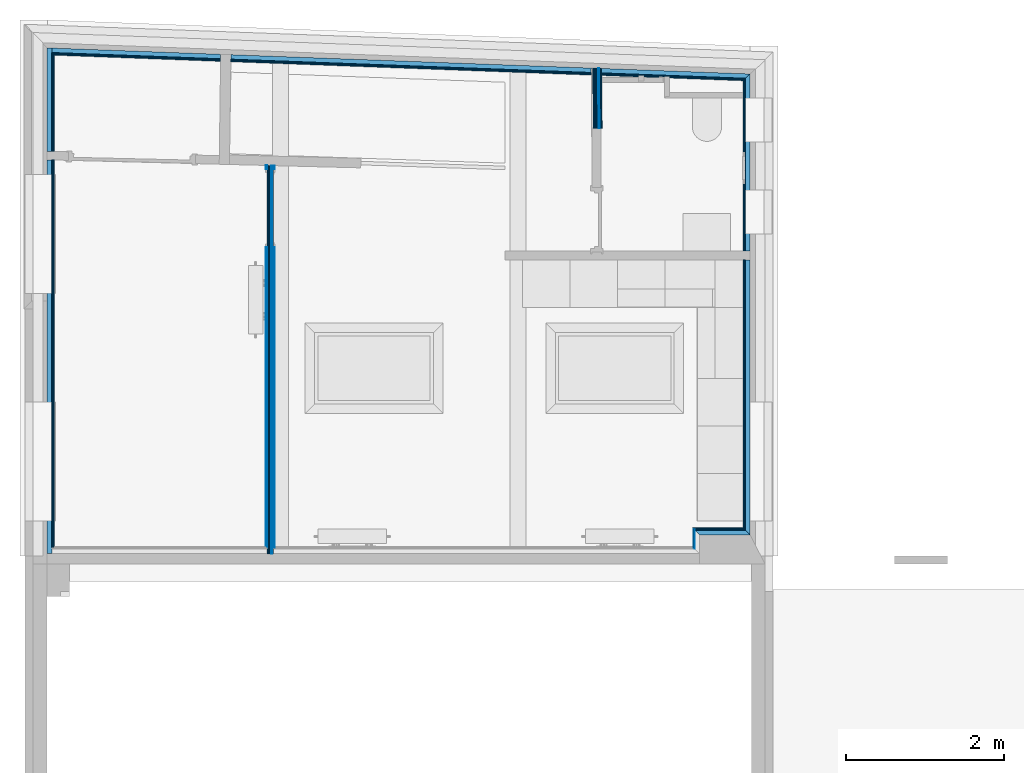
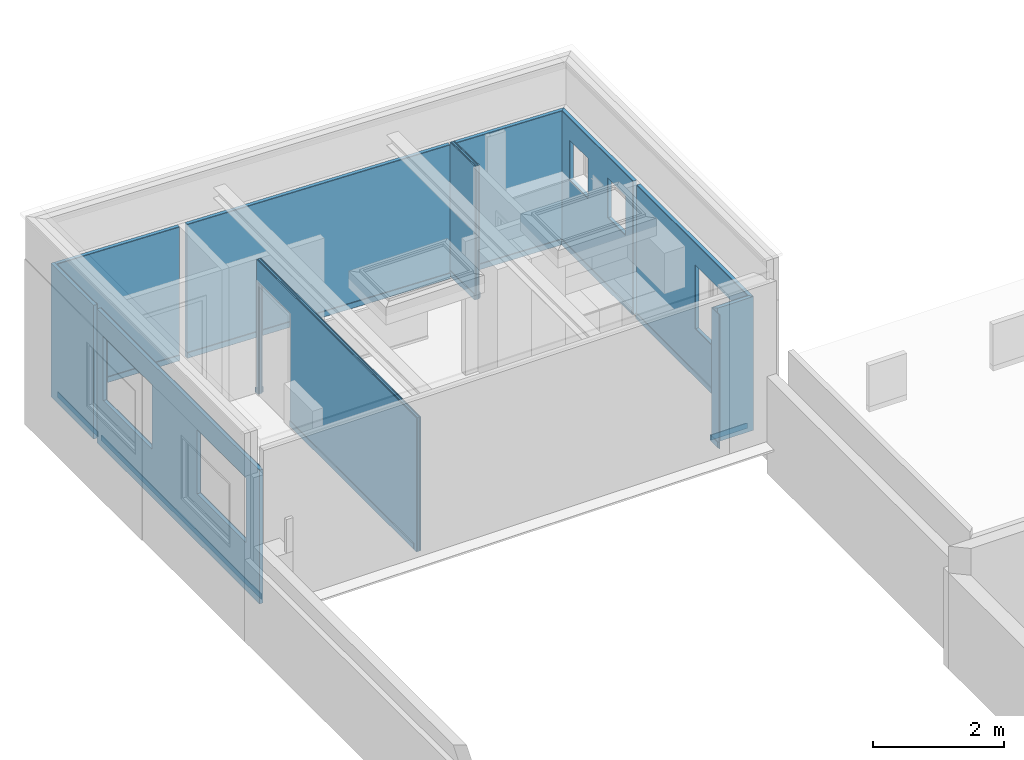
# One storey, part 7 of 22: 40 building element parts, 6 openings, 11 elements without a shape of their own.
"""IFC2X3 building model written with IfcOpenShell, lengths in metres."""

from ifc_helpers import new_model, entity, si_unit, converted_unit, derived_unit, money_unit, direction, frame, frame_2d, origin_with_axes, place, context, subcontext, project, spatial, polyline, rectangle, outline, extrude, material, type_object, element, aggregate, save


model = new_model("IFC2X3")

# Units and contexts
model_context = context("Model", 3, precision=1e-05, world=origin_with_axes(), true_north=direction((0.0, 1.0)))
body_context = subcontext(model_context, "Body", "Model", "MODEL_VIEW", scale=1.0)
ifc_project = project(units=[si_unit("LENGTHUNIT", "METRE"), si_unit("AREAUNIT", "SQUARE_METRE"), si_unit("VOLUMEUNIT", "CUBIC_METRE"), si_unit("ABSORBEDDOSEUNIT", "GRAY"), si_unit("AMOUNTOFSUBSTANCEUNIT", "MOLE"), si_unit("DOSEEQUIVALENTUNIT", "SIEVERT"), si_unit("ELECTRICCAPACITANCEUNIT", "FARAD"), si_unit("ELECTRICCHARGEUNIT", "COULOMB"), si_unit("ELECTRICCONDUCTANCEUNIT", "SIEMENS"), si_unit("ELECTRICCURRENTUNIT", "AMPERE"), si_unit("ELECTRICRESISTANCEUNIT", "OHM"), si_unit("ELECTRICVOLTAGEUNIT", "VOLT"), si_unit("ENERGYUNIT", "JOULE"), si_unit("FORCEUNIT", "NEWTON"), si_unit("FREQUENCYUNIT", "HERTZ"), si_unit("ILLUMINANCEUNIT", "LUX"), si_unit("INDUCTANCEUNIT", "HENRY"), si_unit("LUMINOUSFLUXUNIT", "LUMEN"), si_unit("LUMINOUSINTENSITYUNIT", "CANDELA"), si_unit("MAGNETICFLUXDENSITYUNIT", "TESLA"), si_unit("MAGNETICFLUXUNIT", "WEBER"), si_unit("MASSUNIT", "GRAM"), converted_unit("PLANEANGLEUNIT", "degree", entity("IfcReal", 0.0174532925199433), si_unit("PLANEANGLEUNIT", "RADIAN"), dimensions=[0, 0, 0, 0, 0, 0, 0]), si_unit("POWERUNIT", "WATT"), si_unit("PRESSUREUNIT", "PASCAL"), si_unit("RADIOACTIVITYUNIT", "BECQUEREL"), si_unit("SOLIDANGLEUNIT", "STERADIAN"), si_unit("THERMODYNAMICTEMPERATUREUNIT", "KELVIN"), si_unit("TIMEUNIT", "SECOND"), derived_unit("ACCELERATIONUNIT", [(si_unit("LENGTHUNIT", "METRE"), 1), (si_unit("TIMEUNIT", "SECOND"), -2)]), derived_unit("ANGULARVELOCITYUNIT", [(converted_unit("PLANEANGLEUNIT", "degree", entity("IfcReal", 0.0174532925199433), si_unit("PLANEANGLEUNIT", "RADIAN"), dimensions=[0, 0, 0, 0, 0, 0, 0]), 1), (si_unit("TIMEUNIT", "SECOND"), -1)]), derived_unit("CURVATUREUNIT", [(converted_unit("PLANEANGLEUNIT", "degree", entity("IfcReal", 0.0174532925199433), si_unit("PLANEANGLEUNIT", "RADIAN"), dimensions=[0, 0, 0, 0, 0, 0, 0]), 1), (si_unit("LENGTHUNIT", "METRE"), -1)]), derived_unit("DYNAMICVISCOSITYUNIT", [(si_unit("PRESSUREUNIT", "PASCAL"), 1), (si_unit("TIMEUNIT", "SECOND"), 1)]), derived_unit("HEATFLUXDENSITYUNIT", [(si_unit("POWERUNIT", "WATT"), 1), (si_unit("LENGTHUNIT", "METRE"), -2)]), derived_unit("HEATINGVALUEUNIT", [(si_unit("ENERGYUNIT", "JOULE"), 1), (si_unit("MASSUNIT", "GRAM"), -1)]), derived_unit("INTEGERCOUNTRATEUNIT", [(si_unit("TIMEUNIT", "SECOND"), -1)]), derived_unit("IONCONCENTRATIONUNIT", [(si_unit("MASSUNIT", "GRAM"), 1), (si_unit("VOLUMEUNIT", "CUBIC_METRE"), -1)]), derived_unit("ISOTHERMALMOISTURECAPACITYUNIT", [(si_unit("VOLUMEUNIT", "CUBIC_METRE"), 1), (si_unit("MASSUNIT", "GRAM"), -1)]), derived_unit("KINEMATICVISCOSITYUNIT", [(si_unit("AREAUNIT", "SQUARE_METRE"), 1), (si_unit("TIMEUNIT", "SECOND"), -1)]), derived_unit("LINEARFORCEUNIT", [(si_unit("FORCEUNIT", "NEWTON"), 1), (si_unit("LENGTHUNIT", "METRE"), -1)]), derived_unit("LINEARMOMENTUNIT", [(si_unit("FORCEUNIT", "NEWTON"), 1), (si_unit("LENGTHUNIT", "METRE"), -1)]), derived_unit("LINEARSTIFFNESSUNIT", [(si_unit("FORCEUNIT", "NEWTON"), 1), (si_unit("LENGTHUNIT", "METRE"), -1)]), derived_unit("LINEARVELOCITYUNIT", [(si_unit("LENGTHUNIT", "METRE"), 1), (si_unit("TIMEUNIT", "SECOND"), -1)]), derived_unit("LUMINOUSINTENSITYDISTRIBUTIONUNIT", [(si_unit("LUMINOUSINTENSITYUNIT", "CANDELA"), 1), (si_unit("LUMINOUSFLUXUNIT", "LUMEN"), -1)]), derived_unit("MASSDENSITYUNIT", [(si_unit("MASSUNIT", "GRAM"), 1), (si_unit("VOLUMEUNIT", "CUBIC_METRE"), -1)]), derived_unit("MASSFLOWRATEUNIT", [(si_unit("MASSUNIT", "GRAM"), 1), (si_unit("TIMEUNIT", "SECOND"), -1)]), derived_unit("MASSPERLENGTHUNIT", [(si_unit("MASSUNIT", "GRAM"), 1), (si_unit("LENGTHUNIT", "METRE"), -1)]), derived_unit("MODULUSOFELASTICITYUNIT", [(si_unit("FORCEUNIT", "NEWTON"), 1), (si_unit("AREAUNIT", "SQUARE_METRE"), -1)]), derived_unit("MODULUSOFLINEARSUBGRADEREACTIONUNIT", [(si_unit("FORCEUNIT", "NEWTON"), 1), (si_unit("LENGTHUNIT", "METRE"), -2)]), derived_unit("MODULUSOFROTATIONALSUBGRADEREACTIONUNIT", [(si_unit("FORCEUNIT", "NEWTON"), 1), (si_unit("LENGTHUNIT", "METRE"), 1)]), derived_unit("MODULUSOFSUBGRADEREACTIONUNIT", [(si_unit("FORCEUNIT", "NEWTON"), 1), (si_unit("VOLUMEUNIT", "CUBIC_METRE"), -1)]), derived_unit("MOISTUREDIFFUSIVITYUNIT", [(si_unit("VOLUMEUNIT", "CUBIC_METRE"), 1), (si_unit("TIMEUNIT", "SECOND"), -1)]), derived_unit("MOLECULARWEIGHTUNIT", [(si_unit("MASSUNIT", "GRAM"), 1), (si_unit("AMOUNTOFSUBSTANCEUNIT", "MOLE"), -1)]), derived_unit("PLANARFORCEUNIT", [(si_unit("FORCEUNIT", "NEWTON"), 1), (si_unit("LENGTHUNIT", "METRE"), -2)]), derived_unit("ROTATIONALFREQUENCYUNIT", [(si_unit("TIMEUNIT", "SECOND"), -1)]), derived_unit("ROTATIONALMASSUNIT", [(si_unit("MASSUNIT", "GRAM"), 1), (si_unit("LENGTHUNIT", "METRE"), 2)]), derived_unit("ROTATIONALSTIFFNESSUNIT", [(si_unit("FORCEUNIT", "NEWTON"), 1), (si_unit("LENGTHUNIT", "METRE"), 1), (converted_unit("PLANEANGLEUNIT", "degree", entity("IfcReal", 0.0174532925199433), si_unit("PLANEANGLEUNIT", "RADIAN"), dimensions=[0, 0, 0, 0, 0, 0, 0]), -1)]), derived_unit("SECTIONAREAINTEGRALUNIT", [(si_unit("LENGTHUNIT", "METRE"), 5)]), derived_unit("SECTIONMODULUSUNIT", [(si_unit("LENGTHUNIT", "METRE"), 3)]), derived_unit("SHEARMODULUSUNIT", [(si_unit("FORCEUNIT", "NEWTON"), 1), (si_unit("AREAUNIT", "SQUARE_METRE"), -1)]), derived_unit("SOUNDPOWERUNIT", [(si_unit("ENERGYUNIT", "JOULE"), 1), (si_unit("TIMEUNIT", "SECOND"), -1)]), derived_unit("SPECIFICHEATCAPACITYUNIT", [(si_unit("FORCEUNIT", "NEWTON"), 1), (si_unit("MASSUNIT", "GRAM"), -1), (si_unit("THERMODYNAMICTEMPERATUREUNIT", "KELVIN"), -1)]), derived_unit("TEMPERATUREGRADIENTUNIT", [(si_unit("THERMODYNAMICTEMPERATUREUNIT", "KELVIN"), 1), (si_unit("LENGTHUNIT", "METRE"), -1)]), derived_unit("THERMALADMITTANCEUNIT", [(si_unit("POWERUNIT", "WATT"), 1), (si_unit("AREAUNIT", "SQUARE_METRE"), -1), (si_unit("THERMODYNAMICTEMPERATUREUNIT", "KELVIN"), -1)]), derived_unit("THERMALCONDUCTANCEUNIT", [(si_unit("POWERUNIT", "WATT"), 1), (si_unit("LENGTHUNIT", "METRE"), -1), (si_unit("THERMODYNAMICTEMPERATUREUNIT", "KELVIN"), -1)]), derived_unit("THERMALEXPANSIONCOEFFICIENTUNIT", [(si_unit("THERMODYNAMICTEMPERATUREUNIT", "KELVIN"), -1)]), derived_unit("THERMALRESISTANCEUNIT", [(si_unit("AREAUNIT", "SQUARE_METRE"), 1), (si_unit("POWERUNIT", "WATT"), -1)]), derived_unit("THERMALTRANSMITTANCEUNIT", [(si_unit("POWERUNIT", "WATT"), 1), (si_unit("AREAUNIT", "SQUARE_METRE"), -1), (si_unit("THERMODYNAMICTEMPERATUREUNIT", "KELVIN"), -1)]), derived_unit("TORQUEUNIT", [(si_unit("FORCEUNIT", "NEWTON"), 1), (si_unit("LENGTHUNIT", "METRE"), 1)]), derived_unit("VAPORPERMEABILITYUNIT", [(si_unit("MASSUNIT", "GRAM"), 1), (si_unit("TIMEUNIT", "SECOND"), -1)]), derived_unit("VOLUMETRICFLOWRATEUNIT", [(si_unit("VOLUMEUNIT", "CUBIC_METRE"), 1), (si_unit("TIMEUNIT", "SECOND"), -1)]), derived_unit("WARPINGCONSTANTUNIT", [(si_unit("LENGTHUNIT", "METRE"), 6)]), derived_unit("WARPINGMOMENTUNIT", [(si_unit("FORCEUNIT", "NEWTON"), 1), (si_unit("LENGTHUNIT", "METRE"), 2)]), money_unit("GBP")], contexts=[model_context])

# Site, building, storey
site_placement = place(None, origin_with_axes())
site = spatial("IfcSite", under=ifc_project, at=site_placement, Name="Site", CompositionType="ELEMENT")
building_placement = place(site_placement, origin_with_axes())
building = spatial("IfcBuilding", under=site, at=building_placement, Name="Building01", CompositionType="ELEMENT")
storey_placement = place(building_placement, frame((0.0, 0.0, 2.6), z_axis=(0.0, 0.0, 1.0), x_axis=(1.0, 0.0, 0.0)))
storey = spatial("IfcBuildingStorey", under=building, at=storey_placement, Name="MF", CompositionType="ELEMENT", Elevation=2.6)

# Wall, opening, building element parts
wall_type_1 = type_object("IfcWallType", Name="SHE_A-Walls_Type05b_Partition_80mm", PredefinedType="NOTDEFINED")
wall_1_placement = place(storey_placement, frame((3.110414, 14.93, 0.585), z_axis=(0.0, 0.0, 1.0), x_axis=(0.0, 1.0, 0.0)))
wall_1 = element("IfcWall", 1, at=wall_1_placement, inside=storey, type_object=wall_type_1, Name="5B", ObjectType="SHE_A-Walls_Type05b_Partition_80mm")
opening_1_placement = place(wall_1_placement, frame((3.868347, -0.042, 0.0), z_axis=(0.0, 0.0, 1.0), x_axis=(1.0, 0.0, 0.0)))
element("IfcOpeningElement", 2, at=opening_1_placement, cuts=wall_1, Name="Opening", ObjectType="Opening", context=body_context, shape_type="SweptSolid", body=[
    extrude(rectangle(XDim=2.1, YDim=0.984, at=frame_2d((-0.492, 1.05), x_axis=(0.0, 1.0))), frame((0.0, 0.0, 0.0), z_axis=(0.0, 1.0, 0.0), x_axis=(-1.0, 0.0, 0.0)), (0.0, 0.0, 1.0), 0.11),
])
ifc_material_1 = material(Name="A_BSUK_Walls_Timber")
placement_1 = place(wall_1_placement, origin_with_axes())
building_element_part_1 = element("IfcBuildingElementPart", 3, at=placement_1, material=ifc_material_1, Name="1", context=body_context, shape_type="SweptSolid", body=[
    extrude(outline(polyline([(4.898341, -0.027), (0.072, -0.027), (0.072, -0.042), (4.897956, -0.042), (4.898341, -0.027)])), frame((0.0, 0.0, 0.015), z_axis=(0.0, 0.0, 1.0), x_axis=(1.0, 0.0, 0.0)), (0.0, 0.0, 1.0), 0.1),
])
ifc_material_2 = material(Name="A_BSUK_WallInternal_Finishes_Plasterboard")
building_element_part_2 = element("IfcBuildingElementPart", 4, at=placement_1, material=ifc_material_2, Name="2", context=body_context, shape_type="SweptSolid", body=[
    extrude(outline(polyline([(4.898725, -0.012), (0.0, -0.012), (0.0, -0.027), (4.898341, -0.027), (4.898725, -0.012)])), origin_with_axes(), (0.0, 0.0, 1.0), 2.5),
])
ifc_material_3 = material(Name="Air Cavity")
building_element_part_3 = element("IfcBuildingElementPart", 5, at=placement_1, material=ifc_material_3, Name="3", context=body_context, shape_type="SweptSolid", body=[
    extrude(outline(polyline([(4.899033, 0.0), (0.0, 0.0), (0.0, -0.012), (4.898725, -0.012), (4.899033, 0.0)])), origin_with_axes(), (0.0, 0.0, 1.0), 2.5),
])
ifc_material_4 = material(Name="A_BSUK_Insulation")
building_element_part_4 = element("IfcBuildingElementPart", 6, at=placement_1, material=ifc_material_4, Name="4", context=body_context, shape_type="SweptSolid", body=[
    extrude(outline(polyline([(4.899674, 0.025), (0.0, 0.025), (0.0, 0.0), (4.899033, 0.0), (4.899674, 0.025)])), origin_with_axes(), (0.0, 0.0, 1.0), 2.5),
])
building_element_part_5 = element("IfcBuildingElementPart", 7, at=placement_1, material=ifc_material_3, Name="5", context=body_context, shape_type="SweptSolid", body=[
    extrude(outline(polyline([(4.900007, 0.038), (0.0, 0.038), (0.0, 0.025), (4.899674, 0.025), (4.900007, 0.038)])), origin_with_axes(), (0.0, 0.0, 1.0), 2.5),
])
building_element_part_6 = element("IfcBuildingElementPart", 8, at=placement_1, material=ifc_material_2, Name="6", context=body_context, shape_type="SweptSolid", body=[
    extrude(outline(polyline([(4.900392, 0.053), (0.0, 0.053), (0.0, 0.038), (4.900007, 0.038), (4.900392, 0.053)])), origin_with_axes(), (0.0, 0.0, 1.0), 2.5),
])
building_element_part_7 = element("IfcBuildingElementPart", 9, at=placement_1, material=ifc_material_1, Name="7", context=body_context, shape_type="SweptSolid", body=[
    extrude(outline(polyline([(4.900776, 0.068), (0.072, 0.068), (0.072, 0.053), (4.900392, 0.053), (4.900776, 0.068)])), frame((0.0, 0.0, 0.015), z_axis=(0.0, 0.0, 1.0), x_axis=(1.0, 0.0, 0.0)), (0.0, 0.0, 1.0), 0.1),
])
aggregate(wall_1, [building_element_part_1, building_element_part_2, building_element_part_3, building_element_part_4, building_element_part_5, building_element_part_6, building_element_part_7])

# Wall, building element parts
wall_2_placement = place(storey_placement, frame((7.24475, 20.301424, 0.585), z_axis=(0.0, 0.0, 1.0), x_axis=(-0.01099744, 0.99993953, 0.0)))
wall_2 = element("IfcWall", 10, at=wall_2_placement, inside=storey, type_object=wall_type_1, Name="5B", ObjectType="SHE_A-Walls_Type05b_Partition_80mm")
placement_2 = place(wall_2_placement, origin_with_axes())
building_element_part_8 = element("IfcBuildingElementPart", 11, at=placement_2, material=ifc_material_1, Name="1", context=body_context, shape_type="SweptSolid", body=[
    extrude(outline(polyline([(0.754411, -0.027), (0.0, -0.027), (0.0, -0.042), (0.753689, -0.042), (0.754411, -0.027)])), frame((0.0, 0.0, 0.015), z_axis=(0.0, 0.0, 1.0), x_axis=(1.0, 0.0, 0.0)), (0.0, 0.0, 1.0), 0.1),
])
building_element_part_9 = element("IfcBuildingElementPart", 12, at=placement_2, material=ifc_material_2, Name="2", context=body_context, shape_type="SweptSolid", body=[
    extrude(outline(polyline([(0.755133, -0.012), (0.0, -0.012), (0.0, -0.027), (0.754411, -0.027), (0.755133, -0.012)])), origin_with_axes(), (0.0, 0.0, 1.0), 2.5),
])
building_element_part_10 = element("IfcBuildingElementPart", 13, at=placement_2, material=ifc_material_3, Name="3", context=body_context, shape_type="SweptSolid", body=[
    extrude(outline(polyline([(0.75571, 0.0), (0.0, 0.0), (0.0, -0.012), (0.755133, -0.012), (0.75571, 0.0)])), origin_with_axes(), (0.0, 0.0, 1.0), 2.5),
])
building_element_part_11 = element("IfcBuildingElementPart", 14, at=placement_2, material=ifc_material_4, Name="4", context=body_context, shape_type="SweptSolid", body=[
    extrude(outline(polyline([(0.756913, 0.025), (0.0, 0.025), (0.0, 0.0), (0.75571, 0.0), (0.756913, 0.025)])), origin_with_axes(), (0.0, 0.0, 1.0), 2.5),
])
building_element_part_12 = element("IfcBuildingElementPart", 15, at=placement_2, material=ifc_material_3, Name="5", context=body_context, shape_type="SweptSolid", body=[
    extrude(outline(polyline([(0.757538, 0.038), (0.0, 0.038), (0.0, 0.025), (0.756913, 0.025), (0.757538, 0.038)])), origin_with_axes(), (0.0, 0.0, 1.0), 2.5),
])
building_element_part_13 = element("IfcBuildingElementPart", 16, at=placement_2, material=ifc_material_2, Name="6", context=body_context, shape_type="SweptSolid", body=[
    extrude(outline(polyline([(0.75826, 0.053), (0.0, 0.053), (0.0, 0.038), (0.757538, 0.038), (0.75826, 0.053)])), origin_with_axes(), (0.0, 0.0, 1.0), 2.5),
])
building_element_part_14 = element("IfcBuildingElementPart", 17, at=placement_2, material=ifc_material_1, Name="7", context=body_context, shape_type="SweptSolid", body=[
    extrude(outline(polyline([(0.758982, 0.068), (0.0, 0.068), (0.0, 0.053), (0.75826, 0.053), (0.758982, 0.068)])), frame((0.0, 0.0, 0.015), z_axis=(0.0, 0.0, 1.0), x_axis=(1.0, 0.0, 0.0)), (0.0, 0.0, 1.0), 0.1),
])
aggregate(wall_2, [building_element_part_8, building_element_part_9, building_element_part_10, building_element_part_11, building_element_part_12, building_element_part_13, building_element_part_14])

wall_type_2 = type_object("IfcWallType", Name="SHE_A-Walls_Type06c_ExternalWallInsulation_60mm", PredefinedType="NOTDEFINED")
wall_3_placement = place(storey_placement, frame((0.280897, 21.315124, 0.585), z_axis=(0.0, 0.0, 1.0), x_axis=(0.0, -1.0, 0.0)))
wall_3 = element("IfcWall", 18, at=wall_3_placement, inside=storey, type_object=wall_type_2, Name="6C", ObjectType="SHE_A-Walls_Type06c_ExternalWallInsulation_60mm")
placement_3 = place(wall_3_placement, origin_with_axes())
building_element_part_15 = element("IfcBuildingElementPart", 19, at=placement_3, material=ifc_material_4, Name="1", context=body_context, shape_type="SweptSolid", body=[
    extrude(outline(polyline([(1.307057, 0.06), (0.002226, 0.06), (0.0, 0.0), (1.305519, 0.0), (1.307057, 0.06)])), origin_with_axes(), (0.0, 0.0, 1.0), 2.5),
])
building_element_part_16 = element("IfcBuildingElementPart", 20, at=placement_3, material=ifc_material_2, Name="2", context=body_context, shape_type="SweptSolid", body=[
    extrude(outline(polyline([(1.307365, 0.072), (0.061712, 0.072), (0.061229, 0.059), (1.307031, 0.059), (1.307365, 0.072)])), origin_with_axes(), (0.0, 0.0, 1.0), 2.5),
])
building_element_part_17 = element("IfcBuildingElementPart", 21, at=placement_3, material=ifc_material_1, Name="3", context=body_context, shape_type="SweptSolid", body=[
    extrude(outline(polyline([(1.307749, 0.087), (0.075277, 0.087), (0.074721, 0.072), (1.307365, 0.072), (1.307749, 0.087)])), frame((0.0, 0.0, 0.015), z_axis=(0.0, 0.0, 1.0), x_axis=(1.0, 0.0, 0.0)), (0.0, 0.0, 1.0), 0.1),
])
aggregate(wall_3, [building_element_part_15, building_element_part_16, building_element_part_17])

# Wall, openings, building element parts
wall_4_placement = place(storey_placement, frame((0.280777, 19.90157, 0.585), z_axis=(0.0, 0.0, 1.0), x_axis=(0.0, -1.0, 0.0)))
wall_4 = element("IfcWall", 22, at=wall_4_placement, inside=storey, type_object=wall_type_2, Name="6C", ObjectType="SHE_A-Walls_Type06c_ExternalWallInsulation_60mm")
opening_2_placement = place(wall_4_placement, frame((0.187322, 0.0, 0.9), z_axis=(0.0, 0.0, 1.0), x_axis=(1.0, 0.0, 0.0)))
element("IfcOpeningElement", 23, at=opening_2_placement, cuts=wall_4, Name="Opening", ObjectType="Opening", context=body_context, shape_type="SweptSolid", body=[
    extrude(rectangle(XDim=1.2, YDim=1.5, at=frame_2d((-0.75, 0.6), x_axis=(0.0, -1.0))), frame((0.0, 0.0, 0.0), z_axis=(0.0, 1.0, 0.0), x_axis=(-1.0, 0.0, 0.0)), (0.0, 0.0, 1.0), 0.087),
])
opening_3_placement = place(wall_4_placement, frame((3.05878, 0.0, 0.9), z_axis=(0.0, 0.0, 1.0), x_axis=(1.0, 0.0, 0.0)))
element("IfcOpeningElement", 24, at=opening_3_placement, cuts=wall_4, Name="Opening", ObjectType="Opening", context=body_context, shape_type="SweptSolid", body=[
    extrude(rectangle(XDim=1.2, YDim=1.5, at=frame_2d((-0.75, 0.6), x_axis=(0.0, -1.0))), frame((0.0, 0.0, 0.0), z_axis=(0.0, 1.0, 0.0), x_axis=(-1.0, 0.0, 0.0)), (0.0, 0.0, 1.0), 0.087),
])
placement_4 = place(wall_4_placement, origin_with_axes())
building_element_part_18 = element("IfcBuildingElementPart", 25, at=placement_4, material=ifc_material_4, Name="1", context=body_context, shape_type="SweptSolid", body=[
    extrude(rectangle(XDim=4.97157, YDim=0.06, at=frame_2d((2.485785, 0.03), x_axis=(-1.0, 0.0))), origin_with_axes(), (0.0, 0.0, 1.0), 2.5),
])
building_element_part_19 = element("IfcBuildingElementPart", 26, at=placement_4, material=ifc_material_2, Name="2", context=body_context, shape_type="SweptSolid", body=[
    extrude(outline(polyline([(4.89957, 0.072), (0.001843, 0.072), (0.001509, 0.059), (4.89957, 0.059), (4.89957, 0.072)])), origin_with_axes(), (0.0, 0.0, 1.0), 2.5),
])
building_element_part_20 = element("IfcBuildingElementPart", 27, at=placement_4, material=ifc_material_1, Name="3", context=body_context, shape_type="SweptSolid", body=[
    extrude(rectangle(XDim=4.89957, YDim=0.015, at=frame_2d((2.449785, 0.0795), x_axis=(-1.0, 0.0))), frame((0.0, 0.0, 0.015), z_axis=(0.0, 0.0, 1.0), x_axis=(1.0, 0.0, 0.0)), (0.0, 0.0, 1.0), 0.1),
])
aggregate(wall_4, [building_element_part_18, building_element_part_19, building_element_part_20])

# Wall, building element parts
wall_5_placement = place(storey_placement, frame((2.47137, 21.233862, 0.585), z_axis=(0.0, 0.0, 1.0), x_axis=(-0.99931258, 0.03707243, 0.0)))
wall_5 = element("IfcWall", 28, at=wall_5_placement, inside=storey, type_object=wall_type_2, Name="6C", ObjectType="SHE_A-Walls_Type06c_ExternalWallInsulation_60mm")
placement_5 = place(wall_5_placement, origin_with_axes())
building_element_part_21 = element("IfcBuildingElementPart", 29, at=placement_5, material=ifc_material_4, Name="1", context=body_context, shape_type="SweptSolid", body=[
    extrude(outline(polyline([(2.129712, 0.06), (0.0, 0.06), (0.0, 0.0), (2.131938, 0.0), (2.129712, 0.06)])), origin_with_axes(), (0.0, 0.0, 1.0), 2.5),
])
building_element_part_22 = element("IfcBuildingElementPart", 30, at=placement_5, material=ifc_material_2, Name="2", context=body_context, shape_type="SweptSolid", body=[
    extrude(outline(polyline([(2.117259, 0.072), (0.0, 0.072), (0.0, 0.059), (2.117741, 0.059), (2.117259, 0.072)])), origin_with_axes(), (0.0, 0.0, 1.0), 2.5),
])
building_element_part_23 = element("IfcBuildingElementPart", 31, at=placement_5, material=ifc_material_1, Name="3", context=body_context, shape_type="SweptSolid", body=[
    extrude(outline(polyline([(2.101692, 0.087), (0.0, 0.087), (0.0, 0.072), (2.102249, 0.072), (2.101692, 0.087)])), frame((0.0, 0.0, 0.015), z_axis=(0.0, 0.0, 1.0), x_axis=(1.0, 0.0, 0.0)), (0.0, 0.0, 1.0), 0.1),
])
aggregate(wall_5, [building_element_part_21, building_element_part_22, building_element_part_23])

wall_6_placement = place(storey_placement, frame((7.150398, 21.06028, 0.585), z_axis=(0.0, 0.0, 1.0), x_axis=(-0.99931258, 0.03707243, 0.0)))
wall_6 = element("IfcWall", 32, at=wall_6_placement, inside=storey, type_object=wall_type_2, Name="6C", ObjectType="SHE_A-Walls_Type06c_ExternalWallInsulation_60mm")
placement_6 = place(wall_6_placement, origin_with_axes())
building_element_part_24 = element("IfcBuildingElementPart", 33, at=placement_6, material=ifc_material_4, Name="1", context=body_context, shape_type="SweptSolid", body=[
    extrude(rectangle(XDim=4.552211, YDim=0.06, at=frame_2d((2.276105, 0.03), x_axis=(1.0, 0.0))), origin_with_axes(), (0.0, 0.0, 1.0), 2.5),
])
building_element_part_25 = element("IfcBuildingElementPart", 34, at=placement_6, material=ifc_material_2, Name="2", context=body_context, shape_type="SweptSolid", body=[
    extrude(rectangle(XDim=4.552211, YDim=0.013, at=frame_2d((2.276105, 0.0655), x_axis=(1.0, 0.0))), origin_with_axes(), (0.0, 0.0, 1.0), 2.5),
])
building_element_part_26 = element("IfcBuildingElementPart", 35, at=placement_6, material=ifc_material_1, Name="3", context=body_context, shape_type="SweptSolid", body=[
    extrude(rectangle(XDim=4.552211, YDim=0.015, at=frame_2d((2.276105, 0.0795), x_axis=(1.0, 0.0))), frame((0.0, 0.0, 0.015), z_axis=(0.0, 0.0, 1.0), x_axis=(1.0, 0.0, 0.0)), (0.0, 0.0, 1.0), 0.1),
])
aggregate(wall_6, [building_element_part_24, building_element_part_25, building_element_part_26])

# Wall, openings, building element parts
wall_7_placement = place(storey_placement, frame((9.154265, 18.752607, 0.585), z_axis=(0.0, 0.0, 1.0), x_axis=(0.0, 1.0, 0.0)))
wall_7 = element("IfcWall", 36, at=wall_7_placement, inside=storey, type_object=wall_type_2, Name="6C", ObjectType="SHE_A-Walls_Type06c_ExternalWallInsulation_60mm")
opening_4_placement = place(wall_7_placement, frame((0.209687, 0.0, 1.35), z_axis=(0.0, 0.0, 1.0), x_axis=(1.0, 0.0, 0.0)))
element("IfcOpeningElement", 37, at=opening_4_placement, cuts=wall_7, Name="Opening", ObjectType="Opening", context=body_context, shape_type="SweptSolid", body=[
    extrude(rectangle(XDim=0.75, YDim=0.56, at=frame_2d((-0.28, 0.375), x_axis=(0.0, -1.0))), frame((0.0, 0.0, 0.0), z_axis=(0.0, 1.0, 0.0), x_axis=(-1.0, 0.0, 0.0)), (0.0, 0.0, 1.0), 0.087),
])
opening_5_placement = place(wall_7_placement, frame((1.371296, 0.0, 1.35), z_axis=(0.0, 0.0, 1.0), x_axis=(1.0, 0.0, 0.0)))
element("IfcOpeningElement", 38, at=opening_5_placement, cuts=wall_7, Name="Opening", ObjectType="Opening", context=body_context, shape_type="SweptSolid", body=[
    extrude(rectangle(XDim=0.75, YDim=0.56, at=frame_2d((-0.28, 0.375), x_axis=(0.0, -1.0))), frame((0.0, 0.0, 0.0), z_axis=(0.0, 1.0, 0.0), x_axis=(-1.0, 0.0, 0.0)), (0.0, 0.0, 1.0), 0.087),
])
placement_7 = place(wall_7_placement, origin_with_axes())
building_element_part_27 = element("IfcBuildingElementPart", 39, at=placement_7, material=ifc_material_4, Name="1", context=body_context, shape_type="SweptSolid", body=[
    extrude(outline(polyline([(2.175518, 0.06), (0.0, 0.06), (0.0, 0.0), (2.233334, 0.0), (2.175518, 0.06)])), origin_with_axes(), (0.0, 0.0, 1.0), 2.5),
])
building_element_part_28 = element("IfcBuildingElementPart", 40, at=placement_7, material=ifc_material_2, Name="2", context=body_context, shape_type="SweptSolid", body=[
    extrude(outline(polyline([(2.163955, 0.072), (0.0, 0.072), (0.0, 0.059), (2.176482, 0.059), (2.163955, 0.072)])), origin_with_axes(), (0.0, 0.0, 1.0), 2.5),
])
building_element_part_29 = element("IfcBuildingElementPart", 41, at=placement_7, material=ifc_material_1, Name="3", context=body_context, shape_type="SweptSolid", body=[
    extrude(outline(polyline([(2.149501, 0.087), (0.0, 0.087), (0.0, 0.072), (2.163955, 0.072), (2.149501, 0.087)])), frame((0.0, 0.0, 0.015), z_axis=(0.0, 0.0, 1.0), x_axis=(1.0, 0.0, 0.0)), (0.0, 0.0, 1.0), 0.1),
])
aggregate(wall_7, [building_element_part_27, building_element_part_28, building_element_part_29])

# Wall, building element parts
wall_8_placement = place(storey_placement, frame((9.154265, 20.985941, 0.585), z_axis=(0.0, 0.0, 1.0), x_axis=(-0.99931258, 0.03707243, 0.0)))
wall_8 = element("IfcWall", 42, at=wall_8_placement, inside=storey, type_object=wall_type_2, Name="6C", ObjectType="SHE_A-Walls_Type06c_ExternalWallInsulation_60mm")
placement_8 = place(wall_8_placement, origin_with_axes())
building_element_part_30 = element("IfcBuildingElementPart", 43, at=placement_8, material=ifc_material_4, Name="1", context=body_context, shape_type="SweptSolid", body=[
    extrude(outline(polyline([(0.057815, 0.06), (0.0, 0.0), (1.892968, 0.0), (1.892968, 0.06), (0.057815, 0.06)])), origin_with_axes(), (0.0, 0.0, 1.0), 2.5),
])
building_element_part_31 = element("IfcBuildingElementPart", 44, at=placement_8, material=ifc_material_2, Name="2", context=body_context, shape_type="SweptSolid", body=[
    extrude(outline(polyline([(0.069378, 0.072), (0.056852, 0.059), (1.892968, 0.059), (1.892968, 0.072), (0.069378, 0.072)])), origin_with_axes(), (0.0, 0.0, 1.0), 2.5),
])
building_element_part_32 = element("IfcBuildingElementPart", 45, at=placement_8, material=ifc_material_1, Name="3", context=body_context, shape_type="SweptSolid", body=[
    extrude(outline(polyline([(0.083832, 0.087), (0.069378, 0.072), (1.892968, 0.072), (1.892968, 0.087), (0.083832, 0.087)])), frame((0.0, 0.0, 0.015), z_axis=(0.0, 0.0, 1.0), x_axis=(1.0, 0.0, 0.0)), (0.0, 0.0, 1.0), 0.1),
])
aggregate(wall_8, [building_element_part_30, building_element_part_31, building_element_part_32])

wall_9_placement = place(storey_placement, frame((8.516893, 14.93, 0.585), z_axis=(0.0, 0.0, 1.0), x_axis=(0.0, 1.0, 0.0)))
wall_9 = element("IfcWall", 46, at=wall_9_placement, inside=storey, type_object=wall_type_2, Name="6C", ObjectType="SHE_A-Walls_Type06c_ExternalWallInsulation_60mm")
placement_9 = place(wall_9_placement, origin_with_axes())
building_element_part_33 = element("IfcBuildingElementPart", 47, at=placement_9, material=ifc_material_2, Name="2", context=body_context, shape_type="SweptSolid", body=[
    extrude(outline(polyline([(0.31, 0.072), (0.072, 0.072), (0.059, 0.059), (0.297, 0.059), (0.31, 0.072)])), origin_with_axes(), (0.0, 0.0, 1.0), 2.5),
])
building_element_part_34 = element("IfcBuildingElementPart", 48, at=placement_9, material=ifc_material_1, Name="3", context=body_context, shape_type="SweptSolid", body=[
    extrude(outline(polyline([(0.325, 0.087), (0.087, 0.087), (0.072, 0.072), (0.31, 0.072), (0.325, 0.087)])), frame((0.0, 0.0, 0.015), z_axis=(0.0, 0.0, 1.0), x_axis=(1.0, 0.0, 0.0)), (0.0, 0.0, 1.0), 0.1),
])
aggregate(wall_9, [building_element_part_33, building_element_part_34])

wall_10_placement = place(storey_placement, frame((8.516893, 15.168, 0.585), z_axis=(0.0, 0.0, 1.0), x_axis=(1.0, 0.0, 0.0)))
wall_10 = element("IfcWall", 49, at=wall_10_placement, inside=storey, type_object=wall_type_2, Name="6C", ObjectType="SHE_A-Walls_Type06c_ExternalWallInsulation_60mm")
placement_10 = place(wall_10_placement, origin_with_axes())
building_element_part_35 = element("IfcBuildingElementPart", 50, at=placement_10, material=ifc_material_4, Name="1", context=body_context, shape_type="SweptSolid", body=[
    extrude(outline(polyline([(0.577372, 0.06), (-0.06, 0.06), (0.0, 0.0), (0.637372, 0.0), (0.577372, 0.06)])), origin_with_axes(), (0.0, 0.0, 1.0), 2.5),
])
building_element_part_36 = element("IfcBuildingElementPart", 51, at=placement_10, material=ifc_material_2, Name="2", context=body_context, shape_type="SweptSolid", body=[
    extrude(outline(polyline([(0.565372, 0.072), (-0.072, 0.072), (-0.059, 0.059), (0.578372, 0.059), (0.565372, 0.072)])), origin_with_axes(), (0.0, 0.0, 1.0), 2.5),
])
building_element_part_37 = element("IfcBuildingElementPart", 52, at=placement_10, material=ifc_material_1, Name="3", context=body_context, shape_type="SweptSolid", body=[
    extrude(outline(polyline([(0.550372, 0.087), (-0.087, 0.087), (-0.072, 0.072), (0.565372, 0.072), (0.550372, 0.087)])), frame((0.0, 0.0, 0.015), z_axis=(0.0, 0.0, 1.0), x_axis=(1.0, 0.0, 0.0)), (0.0, 0.0, 1.0), 0.1),
])
aggregate(wall_10, [building_element_part_35, building_element_part_36, building_element_part_37])

# Wall, opening, building element parts
wall_11_placement = place(storey_placement, frame((9.154265, 15.168, 0.585), z_axis=(0.0, 0.0, 1.0), x_axis=(0.0, 1.0, 0.0)))
wall_11 = element("IfcWall", 53, at=wall_11_placement, inside=storey, type_object=wall_type_2, Name="6C", ObjectType="SHE_A-Walls_Type06c_ExternalWallInsulation_60mm")
opening_6_placement = place(wall_11_placement, frame((0.17479, 0.0, 0.9), z_axis=(0.0, 0.0, 1.0), x_axis=(1.0, 0.0, 0.0)))
element("IfcOpeningElement", 54, at=opening_6_placement, cuts=wall_11, Name="Opening", ObjectType="Opening", context=body_context, shape_type="SweptSolid", body=[
    extrude(rectangle(XDim=1.2, YDim=1.5, at=frame_2d((-0.75, 0.6), x_axis=(0.0, -1.0))), frame((0.0, 0.0, 0.0), z_axis=(0.0, 1.0, 0.0), x_axis=(-1.0, 0.0, 0.0)), (0.0, 0.0, 1.0), 0.087),
])
placement_11 = place(wall_11_placement, origin_with_axes())
building_element_part_38 = element("IfcBuildingElementPart", 55, at=placement_11, material=ifc_material_4, Name="1", context=body_context, shape_type="SweptSolid", body=[
    extrude(outline(polyline([(3.471607, 0.06), (0.06, 0.06), (0.0, 0.0), (3.471607, 0.0), (3.471607, 0.06)])), origin_with_axes(), (0.0, 0.0, 1.0), 2.5),
])
building_element_part_39 = element("IfcBuildingElementPart", 56, at=placement_11, material=ifc_material_2, Name="2", context=body_context, shape_type="SweptSolid", body=[
    extrude(outline(polyline([(3.471607, 0.072), (0.072, 0.072), (0.059, 0.059), (3.471607, 0.059), (3.471607, 0.072)])), origin_with_axes(), (0.0, 0.0, 1.0), 2.5),
])
building_element_part_40 = element("IfcBuildingElementPart", 57, at=placement_11, material=ifc_material_1, Name="3", context=body_context, shape_type="SweptSolid", body=[
    extrude(outline(polyline([(0.087, 0.087), (0.072, 0.072), (3.471607, 0.072), (3.471607, 0.087), (0.087, 0.087)])), frame((0.0, 0.0, 0.015), z_axis=(0.0, 0.0, 1.0), x_axis=(1.0, 0.0, 0.0)), (0.0, 0.0, 1.0), 0.1),
])
aggregate(wall_11, [building_element_part_38, building_element_part_39, building_element_part_40])

save(model, "model.ifc")
